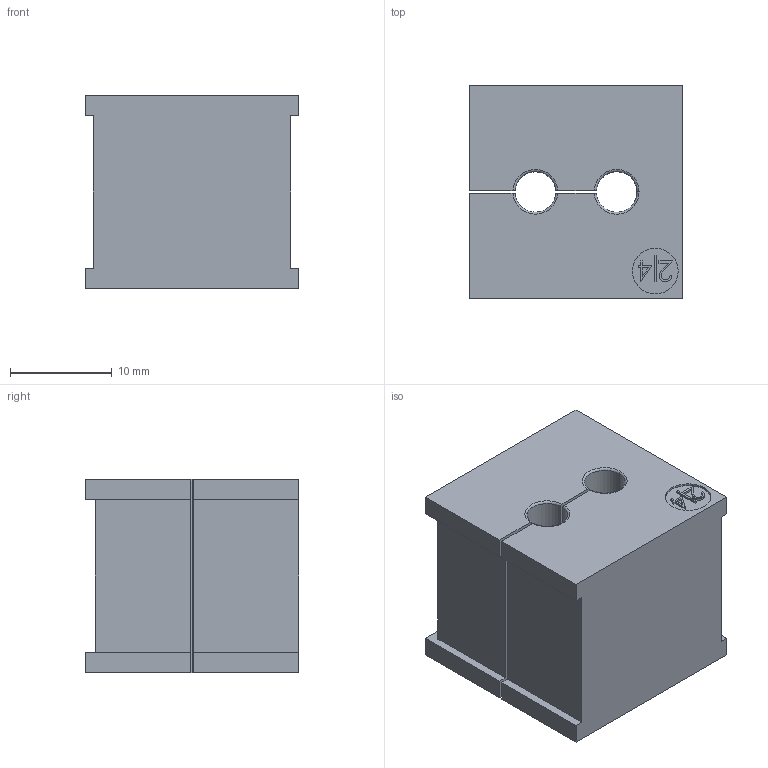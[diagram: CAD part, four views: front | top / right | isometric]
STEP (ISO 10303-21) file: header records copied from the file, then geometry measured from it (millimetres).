
FILE_DESCRIPTION(('STEP AP214'),'1');
FILE_NAME('39906.stp','2025-06-25T07:28:45',('TraceParts'),('TraceParts S.A.'),'Spatial InterOp 3D',' ',' ');
FILE_SCHEMA(('AUTOMOTIVE_DESIGN { 1 0 10303 214 1 1 1 1 }'));
Length unit declared in the file: millimetre
Products named in the file (1): Schnitt-Linear austragen21
Bounding box: 21 x 21 x 19 mm (x, y, z)
Volume: 7051.5 mm3; surface area: 3215.1 mm2
Topology: 1 solids, 1 shells, 70 faces, 185 edges, 123 vertices
Faces by surface type: plane 52, cylinder 8, bspline 6, torus 4
Entity records: 2540 total; most frequent: CARTESIAN_POINT 815, ORIENTED_EDGE 370, DIRECTION 318, EDGE_CURVE 185, LINE 146, VECTOR 146, VERTEX_POINT 123, AXIS2_PLACEMENT_3D 86
